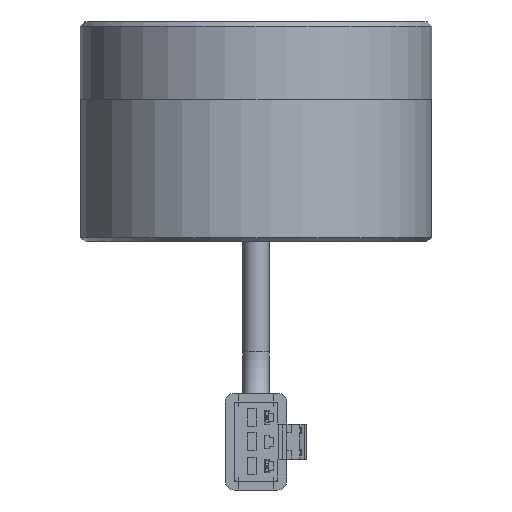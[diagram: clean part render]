
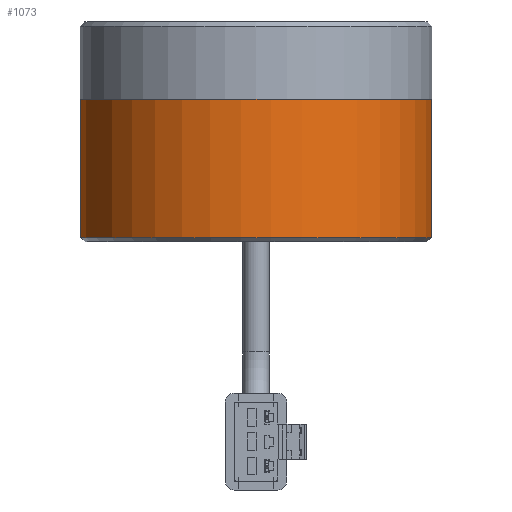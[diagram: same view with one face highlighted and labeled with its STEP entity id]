
A CAD part, front view. The second image highlights one B-rep face of the part: STEP entity #1073.
In plain terms, the highlighted cylindrical face has radius 20 mm (diameter 40 mm), a full revolution.
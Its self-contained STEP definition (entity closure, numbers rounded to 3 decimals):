
#181 = VERTEX_POINT ( 'NONE', #9770 ) ;
#617 = CIRCLE ( 'NONE', #6387, 20. ) ;
#1024 = DIRECTION ( 'NONE',  ( 1., 0., 0. ) ) ;
#1073 = ADVANCED_FACE ( 'NONE', ( #2368, #3553 ), #1331, .T. ) ;
#1183 = CARTESIAN_POINT ( 'NONE',  ( 0., 0., 16.2 ) ) ;
#1331 = CYLINDRICAL_SURFACE ( 'NONE', #7872, 20. ) ;
#2368 = FACE_OUTER_BOUND ( 'NONE', #11567, .T. ) ;
#2391 = CARTESIAN_POINT ( 'NONE',  ( 20., 0., 16.2 ) ) ;
#2965 = AXIS2_PLACEMENT_3D ( 'NONE', #1183, #6251, #1024 ) ;
#3553 = FACE_OUTER_BOUND ( 'NONE', #10335, .T. ) ;
#4195 = EDGE_CURVE ( 'NONE', #10886, #10886, #11191, .T. ) ;
#5178 = ORIENTED_EDGE ( 'NONE', *, *, #4195, .F. ) ;
#6251 = DIRECTION ( 'NONE',  ( 0., 0., 1. ) ) ;
#6387 = AXIS2_PLACEMENT_3D ( 'NONE', #7333, #12430, #12633 ) ;
#6652 = ORIENTED_EDGE ( 'NONE', *, *, #11970, .T. ) ;
#7333 = CARTESIAN_POINT ( 'NONE',  ( 0., 0., 0.5 ) ) ;
#7798 = DIRECTION ( 'NONE',  ( 0., 0., -1. ) ) ;
#7872 = AXIS2_PLACEMENT_3D ( 'NONE', #10862, #7798, #12187 ) ;
#9770 = CARTESIAN_POINT ( 'NONE',  ( 20., 0., 0.5 ) ) ;
#10335 = EDGE_LOOP ( 'NONE', ( #5178 ) ) ;
#10862 = CARTESIAN_POINT ( 'NONE',  ( 0., 0., 20.5 ) ) ;
#10886 = VERTEX_POINT ( 'NONE', #2391 ) ;
#11191 = CIRCLE ( 'NONE', #2965, 20. ) ;
#11567 = EDGE_LOOP ( 'NONE', ( #6652 ) ) ;
#11970 = EDGE_CURVE ( 'NONE', #181, #181, #617, .T. ) ;
#12187 = DIRECTION ( 'NONE',  ( -1., 0., 0. ) ) ;
#12430 = DIRECTION ( 'NONE',  ( 0., 0., 1. ) ) ;
#12633 = DIRECTION ( 'NONE',  ( 1., 0., 0. ) ) ;
